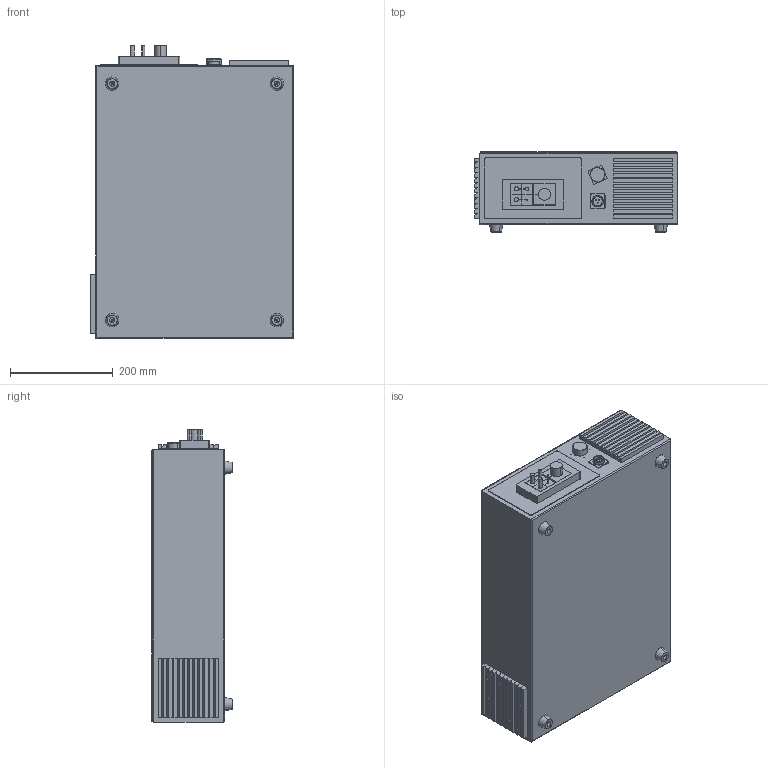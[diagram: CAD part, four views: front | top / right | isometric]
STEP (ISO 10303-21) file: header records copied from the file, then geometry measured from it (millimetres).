
FILE_DESCRIPTION (( 'STEP AP203' ), '1' );
FILE_NAME ('IP54控制器防护盒供客模型（平放）.STEP', '2021-10-07T07:08:44', ( 'admin' ), ( '' ), 'SwSTEP 2.0', 'SolidWorks 2018', '' );
FILE_SCHEMA (( 'CONFIG_CONTROL_DESIGN' ));
Length unit declared in the file: millimetre
Products named in the file (17): ZIL85-6; IP54控制器防护盒供客模型（平放）; 哏ひWS20J4Z; ZIL85-8; ZIL78-16-5; ZIL85-2; APT偌聽羲壽LA39-B2-11TDW31; ZIL89-8; ZIL86-23; 粣霜瑞圮92(DC24); 1010404116_滅誘奻裔_IP54滅誘碟; 遺殤嘐隅啣; 滅誘眊极ㄗ鼎諦ㄘ; ECRK26; ZIL89-D2; ZIL89-D6; 諉盄耀輸
Assembly tree (22 placements, depth 3):
  IP54控制器防护盒供客模型（平放）
    滅誘眊极ㄗ鼎諦ㄘ
    1010404116_滅誘奻裔_IP54滅誘碟
    遺殤嘐隅啣
    諉盄耀輸
      ZIL78-16-5
      ZIL86-23
      ZIL85-6
      ZIL85-8  x2
      ZIL89-8  x2
      ZIL85-2
      ZIL89-D2
      ZIL89-D6
    哏ひWS20J4Z
    APT偌聽羲壽LA39-B2-11TDW31
    粣霜瑞圮92(DC24)  x2
    ECRK26  x4
Bounding box: 394 x 156.5 x 568.5 mm (x, y, z)
Volume: 29620174.5 mm3; surface area: 1278138.5 mm2
Topology: 22 solids, 22 shells, 416 faces, 981 edges, 610 vertices
Faces by surface type: plane 213, cylinder 127, cone 40, torus 36
Entity records: 10618 total; most frequent: DIRECTION 1599, CARTESIAN_POINT 1503, ORIENTED_EDGE 1390, EDGE_CURVE 695, AXIS2_PLACEMENT_3D 580, VERTEX_POINT 444, LINE 439, VECTOR 439
